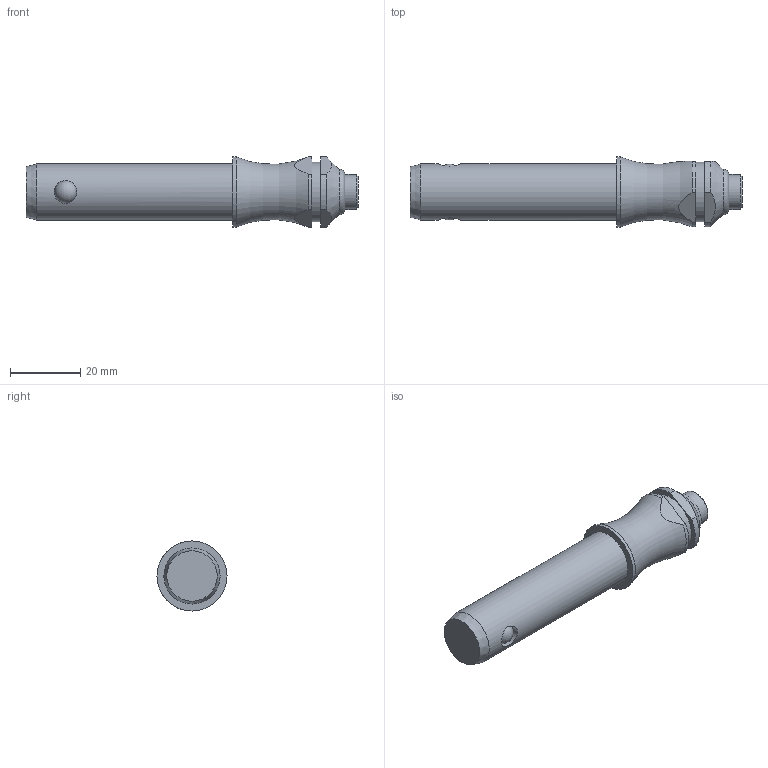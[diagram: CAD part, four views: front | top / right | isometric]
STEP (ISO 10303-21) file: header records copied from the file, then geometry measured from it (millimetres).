
FILE_DESCRIPTION( ( 'STEP AP203' ), '1' );
FILE_NAME( 'C:/Temp/Ganter_Step_05_03_2020/data/3_1/gn113_3/Stainless Steel-Ball lock pin GN 113.3-16-45 (activated).stp', '2020-03-12T08:18:53', ( 'License CC BY-ND 4.0' ), ( 'CADENAS' ), ' ', 'PARTsolutions', ' ' );
FILE_SCHEMA( ( 'CONFIG_CONTROL_DESIGN' ) );
Length unit declared in the file: millimetre
Products named in the file (1): _Stainless Steel-Ball lock pin GN 113.3-16-45 (activated)
Bounding box: 94.75 x 20 x 20 mm (x, y, z)
Volume: 19411.1 mm3; surface area: 5572.4 mm2
Topology: 1 solids, 1 shells, 30 faces, 68 edges, 43 vertices
Faces by surface type: cylinder 12, plane 11, cone 3, torus 2, sphere 2
Full cylindrical faces by diameter (mm): 6.5 x2, 10 x1, 16 x1, 17 x1, 20 x1
Entity records: 1014 total; most frequent: CARTESIAN_POINT 364, DIRECTION 130, ORIENTED_EDGE 102, AXIS2_PLACEMENT_3D 56, EDGE_CURVE 51, EDGE_LOOP 46, VERTEX_POINT 40, FACE_OUTER_BOUND 38
